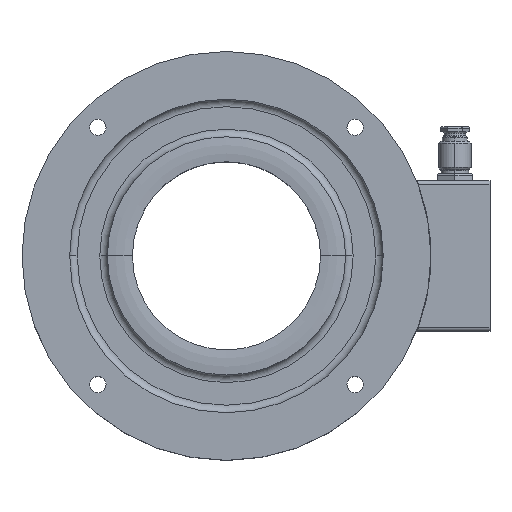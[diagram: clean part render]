
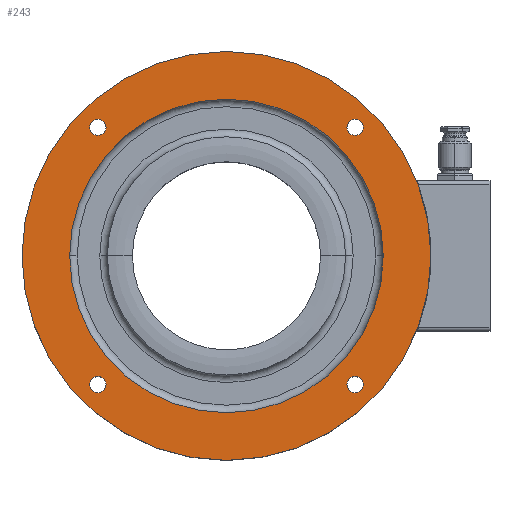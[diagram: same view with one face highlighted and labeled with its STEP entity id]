
A CAD part, top view. The second image highlights one B-rep face of the part: STEP entity #243.
In plain terms, the highlighted planar face has unit normal (0, 0, 1) as drawn and (0, 1, 0) by its records, which use the part's own axes.
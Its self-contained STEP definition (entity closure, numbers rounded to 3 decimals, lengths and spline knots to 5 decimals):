
#243=ADVANCED_FACE('0:66',(#510,#511,#512,#513,#514,#515),#516,.T.);
#510=FACE_OUTER_BOUND('',#841,.T.);
#511=FACE_BOUND('',#842,.T.);
#512=FACE_BOUND('',#843,.T.);
#513=FACE_BOUND('',#844,.T.);
#514=FACE_BOUND('',#845,.T.);
#515=FACE_BOUND('',#846,.T.);
#516=PLANE('',#847);
#841=EDGE_LOOP('',(#1270,#1271));
#842=EDGE_LOOP('',(#1272,#1273));
#843=EDGE_LOOP('',(#1274,#1275));
#844=EDGE_LOOP('',(#1276,#1277));
#845=EDGE_LOOP('',(#1278,#1279));
#846=EDGE_LOOP('',(#1280,#1281));
#847=AXIS2_PLACEMENT_3D('',#1282,#1283,#1284);
#1270=ORIENTED_EDGE('',*,*,#1944,.F.);
#1271=ORIENTED_EDGE('',*,*,#1999,.F.);
#1272=ORIENTED_EDGE('',*,*,#1964,.F.);
#1273=ORIENTED_EDGE('',*,*,#1990,.F.);
#1274=ORIENTED_EDGE('',*,*,#1969,.F.);
#1275=ORIENTED_EDGE('',*,*,#1987,.F.);
#1276=ORIENTED_EDGE('',*,*,#1974,.F.);
#1277=ORIENTED_EDGE('',*,*,#1984,.F.);
#1278=ORIENTED_EDGE('',*,*,#1979,.F.);
#1279=ORIENTED_EDGE('',*,*,#1981,.F.);
#1280=ORIENTED_EDGE('',*,*,#1927,.T.);
#1281=ORIENTED_EDGE('',*,*,#2006,.T.);
#1282=CARTESIAN_POINT('',(0.0625,0.04,0.0));
#1283=DIRECTION('',(0.,1.0,0.));
#1284=DIRECTION('',(1.0,0.0,0.));
#1927=EDGE_CURVE('0:132',#2247,#2244,#2248,.T.);
#1944=EDGE_CURVE('0:120',#2274,#2270,#2276,.T.);
#1964=EDGE_CURVE('0:99',#2306,#2302,#2308,.F.);
#1969=EDGE_CURVE('0:93',#2315,#2311,#2317,.F.);
#1974=EDGE_CURVE('0:87',#2324,#2320,#2326,.F.);
#1979=EDGE_CURVE('0:81',#2333,#2329,#2335,.F.);
#1981=EDGE_CURVE('',#2329,#2333,#2337,.F.);
#1984=EDGE_CURVE('',#2320,#2324,#2340,.F.);
#1987=EDGE_CURVE('',#2311,#2315,#2343,.F.);
#1990=EDGE_CURVE('',#2302,#2306,#2346,.F.);
#1999=EDGE_CURVE('',#2270,#2274,#2355,.T.);
#2006=EDGE_CURVE('',#2244,#2247,#2362,.T.);
#2244=VERTEX_POINT('',#2692);
#2247=VERTEX_POINT('',#2695);
#2248=CIRCLE('',#2696,0.0625);
#2270=VERTEX_POINT('',#2720);
#2274=VERTEX_POINT('NONE',#2725);
#2276=CIRCLE('',#2728,0.0815);
#2302=VERTEX_POINT('',#2758);
#2306=VERTEX_POINT('NONE',#2763);
#2308=CIRCLE('',#2766,0.00325);
#2311=VERTEX_POINT('',#2769);
#2315=VERTEX_POINT('NONE',#2774);
#2317=CIRCLE('',#2777,0.00325);
#2320=VERTEX_POINT('',#2780);
#2324=VERTEX_POINT('NONE',#2785);
#2326=CIRCLE('',#2788,0.00325);
#2329=VERTEX_POINT('',#2791);
#2333=VERTEX_POINT('NONE',#2796);
#2335=CIRCLE('',#2799,0.00325);
#2337=CIRCLE('',#2801,0.00325);
#2340=CIRCLE('',#2804,0.00325);
#2343=CIRCLE('',#2807,0.00325);
#2346=CIRCLE('',#2810,0.00325);
#2355=CIRCLE('',#2819,0.0815);
#2362=CIRCLE('',#2826,0.0625);
#2692=CARTESIAN_POINT('',(-0.0625,0.04,0.));
#2695=CARTESIAN_POINT('',(0.0625,0.04,0.));
#2696=AXIS2_PLACEMENT_3D('',#3282,#3283,#3284);
#2720=CARTESIAN_POINT('',(0.0815,0.04,0.));
#2725=CARTESIAN_POINT('',(-0.0815,0.04,0.));
#2728=AXIS2_PLACEMENT_3D('',#3316,#3317,#3318);
#2758=CARTESIAN_POINT('',(-0.05127,0.04,0.05452));
#2763=CARTESIAN_POINT('',(-0.05127,0.04,0.04802));
#2766=AXIS2_PLACEMENT_3D('',#3352,#3353,#3354);
#2769=CARTESIAN_POINT('',(0.05127,0.04,0.05452));
#2774=CARTESIAN_POINT('',(0.05127,0.04,0.04802));
#2777=AXIS2_PLACEMENT_3D('',#3360,#3361,#3362);
#2780=CARTESIAN_POINT('',(0.05127,0.04,-0.04802));
#2785=CARTESIAN_POINT('',(0.05127,0.04,-0.05452));
#2788=AXIS2_PLACEMENT_3D('',#3368,#3369,#3370);
#2791=CARTESIAN_POINT('',(-0.05127,0.04,-0.04802));
#2796=CARTESIAN_POINT('',(-0.05127,0.04,-0.05452));
#2799=AXIS2_PLACEMENT_3D('',#3376,#3377,#3378);
#2801=AXIS2_PLACEMENT_3D('',#3379,#3380,#3381);
#2804=AXIS2_PLACEMENT_3D('',#3385,#3386,#3387);
#2807=AXIS2_PLACEMENT_3D('',#3391,#3392,#3393);
#2810=AXIS2_PLACEMENT_3D('',#3397,#3398,#3399);
#2819=AXIS2_PLACEMENT_3D('',#3412,#3413,#3414);
#2826=AXIS2_PLACEMENT_3D('',#3424,#3425,#3426);
#3282=CARTESIAN_POINT('',(0.,0.04,0.0));
#3283=DIRECTION('',(0.0,-1.0,0.0));
#3284=DIRECTION('',(1.0,0.0,0.0));
#3316=CARTESIAN_POINT('',(0.,0.04,0.0));
#3317=DIRECTION('',(0.0,-1.0,0.0));
#3318=DIRECTION('',(1.0,0.0,0.0));
#3352=CARTESIAN_POINT('',(-0.05127,0.04,0.05127));
#3353=DIRECTION('',(0.,-1.0,0.));
#3354=DIRECTION('',(0.,0.,1.0));
#3360=CARTESIAN_POINT('',(0.05127,0.04,0.05127));
#3361=DIRECTION('',(0.,-1.0,0.));
#3362=DIRECTION('',(0.,0.,1.0));
#3368=CARTESIAN_POINT('',(0.05127,0.04,-0.05127));
#3369=DIRECTION('',(0.,-1.0,0.));
#3370=DIRECTION('',(0.,0.,1.0));
#3376=CARTESIAN_POINT('',(-0.05127,0.04,-0.05127));
#3377=DIRECTION('',(0.,-1.0,0.));
#3378=DIRECTION('',(0.,0.,1.0));
#3379=CARTESIAN_POINT('',(-0.05127,0.04,-0.05127));
#3380=DIRECTION('',(0.,-1.0,0.));
#3381=DIRECTION('',(0.,0.,1.0));
#3385=CARTESIAN_POINT('',(0.05127,0.04,-0.05127));
#3386=DIRECTION('',(0.,-1.0,0.));
#3387=DIRECTION('',(0.,0.,1.0));
#3391=CARTESIAN_POINT('',(0.05127,0.04,0.05127));
#3392=DIRECTION('',(0.,-1.0,0.));
#3393=DIRECTION('',(0.,0.,1.0));
#3397=CARTESIAN_POINT('',(-0.05127,0.04,0.05127));
#3398=DIRECTION('',(0.,-1.0,0.));
#3399=DIRECTION('',(0.,0.,1.0));
#3412=CARTESIAN_POINT('',(0.,0.04,0.0));
#3413=DIRECTION('',(0.0,-1.0,0.0));
#3414=DIRECTION('',(1.0,0.0,0.0));
#3424=CARTESIAN_POINT('',(0.,0.04,0.0));
#3425=DIRECTION('',(0.0,-1.0,0.0));
#3426=DIRECTION('',(1.0,0.0,0.0));
